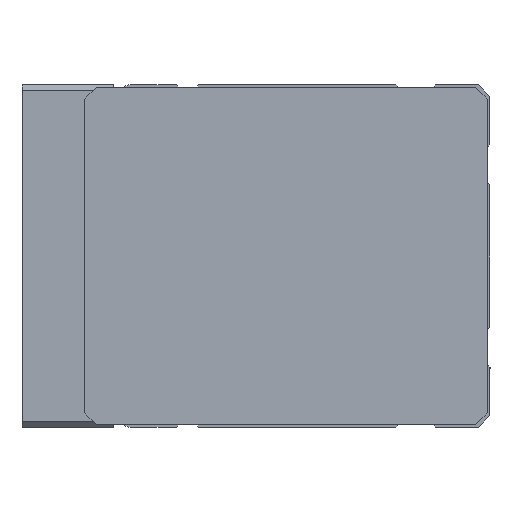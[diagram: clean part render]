
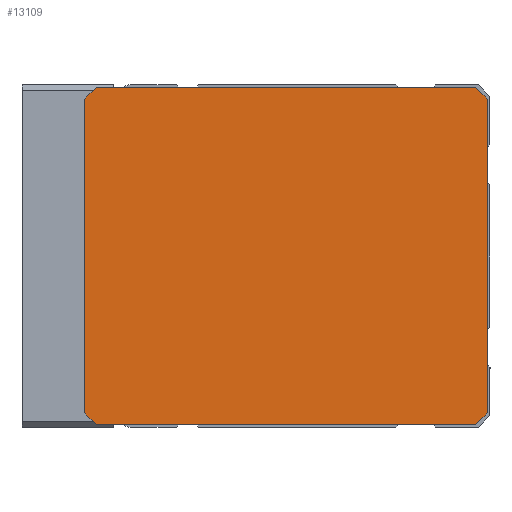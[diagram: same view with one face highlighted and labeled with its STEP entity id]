
A CAD part, left-side view. The second image highlights one B-rep face of the part: STEP entity #13109.
In plain terms, the highlighted planar face has unit normal (-1, 0, 0) as drawn and (0, 0, -1) by its records, which use the part's own axes.
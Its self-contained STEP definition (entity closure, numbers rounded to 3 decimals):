
#930=FACE_OUTER_BOUND('',#1688,.T.);
#1688=EDGE_LOOP('',(#8967,#8968,#8969,#8970,#8971,#8972,#8973,#8974));
#2690=LINE('',#18419,#3978);
#2693=LINE('',#18424,#3981);
#2695=LINE('',#18428,#3983);
#2697=LINE('',#18432,#3985);
#2699=LINE('',#18436,#3987);
#2701=LINE('',#18446,#3989);
#2704=LINE('',#18450,#3992);
#2705=LINE('',#18452,#3993);
#3978=VECTOR('',#15137,66.5);
#3981=VECTOR('',#15142,2.828);
#3983=VECTOR('',#15146,55.);
#3985=VECTOR('',#15150,2.828);
#3987=VECTOR('',#15154,66.5);
#3989=VECTOR('',#15164,55.);
#3992=VECTOR('',#15169,2.828);
#3993=VECTOR('',#15172,2.828);
#5609=VERTEX_POINT('',#18417);
#5610=VERTEX_POINT('',#18418);
#5611=VERTEX_POINT('',#18423);
#5612=VERTEX_POINT('',#18427);
#5613=VERTEX_POINT('',#18431);
#5614=VERTEX_POINT('',#18435);
#5617=VERTEX_POINT('',#18444);
#5618=VERTEX_POINT('',#18445);
#6952=EDGE_CURVE('',#5609,#5610,#2690,.T.);
#6955=EDGE_CURVE('',#5611,#5609,#2693,.T.);
#6957=EDGE_CURVE('',#5612,#5611,#2695,.T.);
#6959=EDGE_CURVE('',#5613,#5612,#2697,.T.);
#6961=EDGE_CURVE('',#5614,#5613,#2699,.T.);
#6965=EDGE_CURVE('',#5617,#5618,#2701,.T.);
#6968=EDGE_CURVE('',#5618,#5614,#2704,.T.);
#6969=EDGE_CURVE('',#5610,#5617,#2705,.T.);
#8967=ORIENTED_EDGE('',*,*,#6955,.T.);
#8968=ORIENTED_EDGE('',*,*,#6952,.T.);
#8969=ORIENTED_EDGE('',*,*,#6969,.T.);
#8970=ORIENTED_EDGE('',*,*,#6965,.T.);
#8971=ORIENTED_EDGE('',*,*,#6968,.T.);
#8972=ORIENTED_EDGE('',*,*,#6961,.T.);
#8973=ORIENTED_EDGE('',*,*,#6959,.T.);
#8974=ORIENTED_EDGE('',*,*,#6957,.T.);
#12661=PLANE('',#13991);
#13109=ADVANCED_FACE('',(#930),#12661,.T.);
#13991=AXIS2_PLACEMENT_3D('',#18453,#15173,#15174);
#15137=DIRECTION('',(0.,-1.,0.));
#15142=DIRECTION('',(0.707,-0.707,0.));
#15146=DIRECTION('',(1.,0.,0.));
#15150=DIRECTION('',(0.707,0.707,0.));
#15154=DIRECTION('',(0.,1.,0.));
#15164=DIRECTION('',(-1.,0.,0.));
#15169=DIRECTION('',(-0.707,0.707,0.));
#15172=DIRECTION('',(-0.707,-0.707,0.));
#15173=DIRECTION('center_axis',(0.,0.,
-1.));
#15174=DIRECTION('ref_axis',(-1.,0.,0.));
#18417=CARTESIAN_POINT('',(0.5,69.,-790.));
#18418=CARTESIAN_POINT('',(0.5,2.5,-790.));
#18419=CARTESIAN_POINT('',(0.5,69.,-790.));
#18423=CARTESIAN_POINT('',(-1.5,71.,-790.));
#18424=CARTESIAN_POINT('',(-1.5,71.,-790.));
#18427=CARTESIAN_POINT('',(-56.5,71.,-790.));
#18428=CARTESIAN_POINT('',(-56.5,71.,-790.));
#18431=CARTESIAN_POINT('',(-58.5,69.,-790.));
#18432=CARTESIAN_POINT('',(-58.5,69.,-790.));
#18435=CARTESIAN_POINT('',(-58.5,2.5,-790.));
#18436=CARTESIAN_POINT('',(-58.5,2.5,-790.));
#18444=CARTESIAN_POINT('',(-1.5,0.5,-790.));
#18445=CARTESIAN_POINT('',(-56.5,0.5,-790.));
#18446=CARTESIAN_POINT('',(-1.5,0.5,-790.));
#18450=CARTESIAN_POINT('',(-56.5,0.5,-790.));
#18452=CARTESIAN_POINT('',(0.5,2.5,-790.));
#18453=CARTESIAN_POINT('Origin',(-174.931,117.937,-790.));
